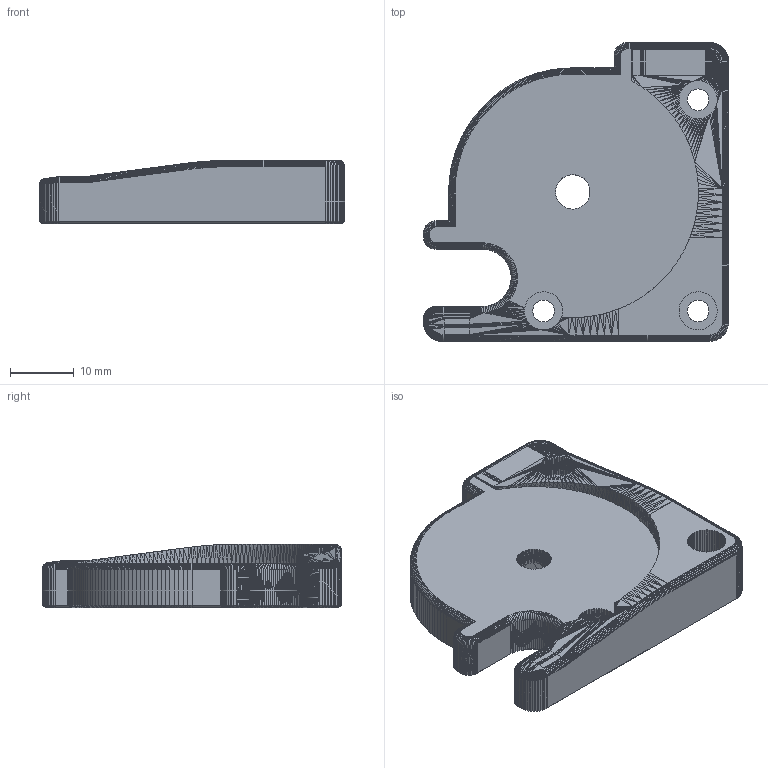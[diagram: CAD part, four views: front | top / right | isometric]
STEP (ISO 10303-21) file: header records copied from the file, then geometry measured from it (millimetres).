
FILE_DESCRIPTION(('Open CASCADE Model'),'2;1');
FILE_NAME('Open CASCADE Shape Model','2026-11-22T23:46:25',('Author'),( 'Open CASCADE'),'Open CASCADE STEP processor 8.0','Open CASCADE 8.0' ,'Unknown');
FILE_SCHEMA(('AUTOMOTIVE_DESIGN { 1 0 10303 214 1 1 1 1 }'));
Products named in the file (1): [a]_z_drive_baseplate_b_plus4mm_x2
Bounding box: 48 x 47 x 10 mm (x, y, z)
Volume: 13062.3 mm3; surface area: 5691.4 mm2
Topology: 1 solids, 1 shells, 9022 faces, 14576 edges, 5557 vertices
Faces by surface type: plane 9022
Entity records: 374846 total; most frequent: DIRECTION 61774, CARTESIAN_POINT 58308, LINE 43728, VECTOR 43728, ORIENTED_EDGE 29152, PCURVE 29152, DEFINITIONAL_REPRESENTATION 29152, EDGE_CURVE 14576
